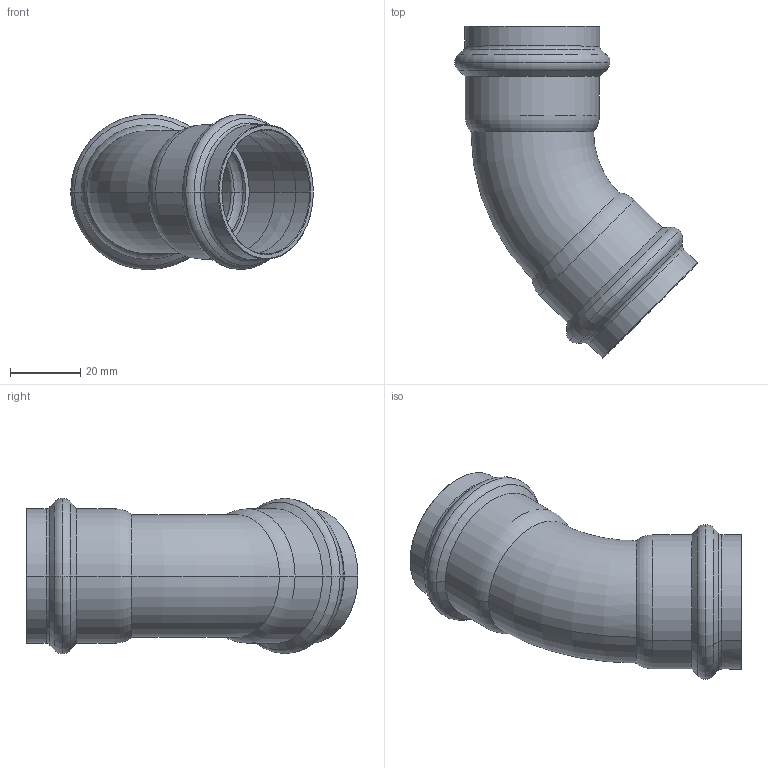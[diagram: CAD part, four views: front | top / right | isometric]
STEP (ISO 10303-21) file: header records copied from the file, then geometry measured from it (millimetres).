
FILE_DESCRIPTION(('CoCreate Modeling STEP Export'),'2;1');
FILE_NAME('8041VW35.stp','2013-01-29T14:31:54',(''),(''),'CoCreate Modeling STEP processor for AP214 (Solid Model)','CoCreate Modeling 17.00A 17-Jun-2010 (C) Parametric Technology GmbH','');
FILE_SCHEMA(('AUTOMOTIVE_DESIGN { 1 0 10303 214 1 1 1 1 }'));
Length unit declared in the file: millimetre
Products named in the file (1): 8041VW35
Bounding box: 69.24 x 94.68 x 44.3 mm (x, y, z)
Volume: 20078.4 mm3; surface area: 22712.3 mm2
Topology: 1 solids, 1 shells, 86 faces, 186 edges, 110 vertices
Faces by surface type: torus 32, cylinder 24, cone 20, plane 10
Entity records: 2500 total; most frequent: CARTESIAN_POINT 881, ORIENTED_EDGE 372, DIRECTION 300, EDGE_CURVE 186, AXIS2_PLACEMENT_3D 128, VERTEX_POINT 110, EDGE_LOOP 96, FACE_OUTER_BOUND 86
